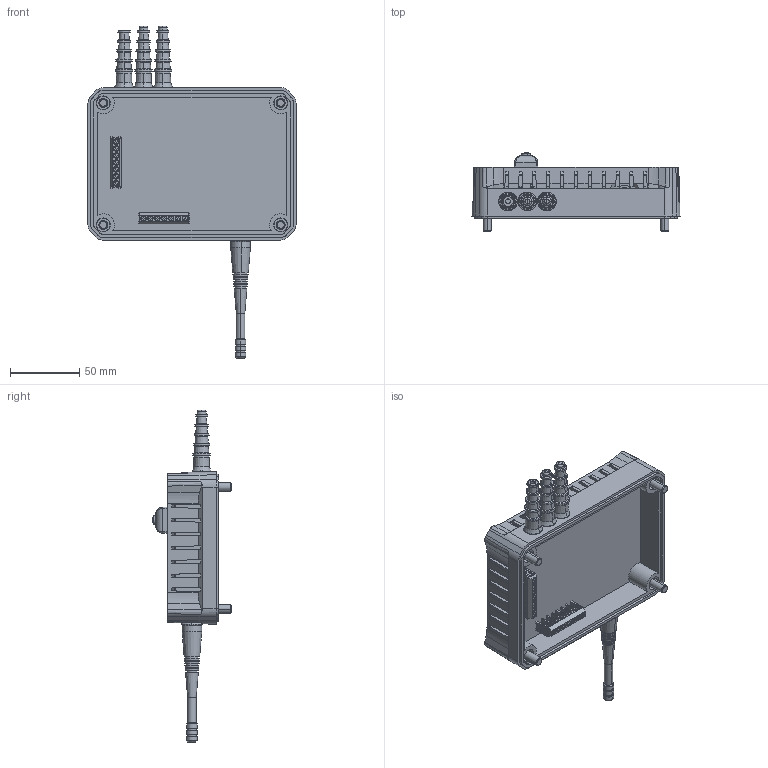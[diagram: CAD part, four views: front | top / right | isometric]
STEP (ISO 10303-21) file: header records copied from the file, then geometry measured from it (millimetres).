
FILE_DESCRIPTION (( 'STEP AP203' ), '1' );
FILE_NAME ('S-1320O.STEP', '2018-05-28T11:39:18', ( '' ), ( '' ), 'SwSTEP 2.0', 'SolidWorks 2018', '' );
FILE_SCHEMA (( 'CONFIG_CONTROL_DESIGN' ));
Products named in the file (1): S-1320O
Bounding box: 150 x 56.87 x 239.41 mm (x, y, z)
Volume: 326480 mm3; surface area: 99536.8 mm2
Topology: 11 solids, 40 shells, 3297 faces, 9456 edges, 6282 vertices
Faces by surface type: plane 1742, cylinder 837, cone 466, torus 176, bspline 70, sphere 6
Entity records: 113652 total; most frequent: CARTESIAN_POINT 28998, ORIENTED_EDGE 18880, DIRECTION 16398, EDGE_CURVE 9440, VERTEX_POINT 6282, VECTOR 5554, LINE 5554, AXIS2_PLACEMENT_3D 5422
